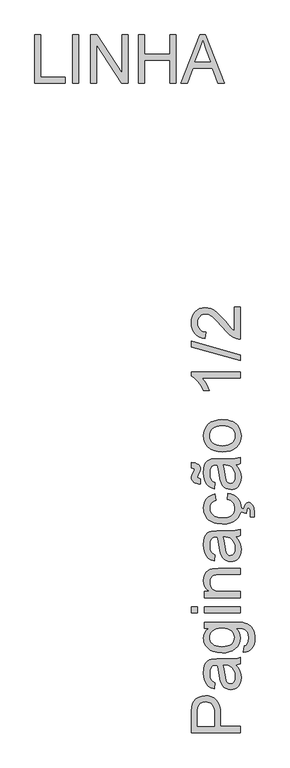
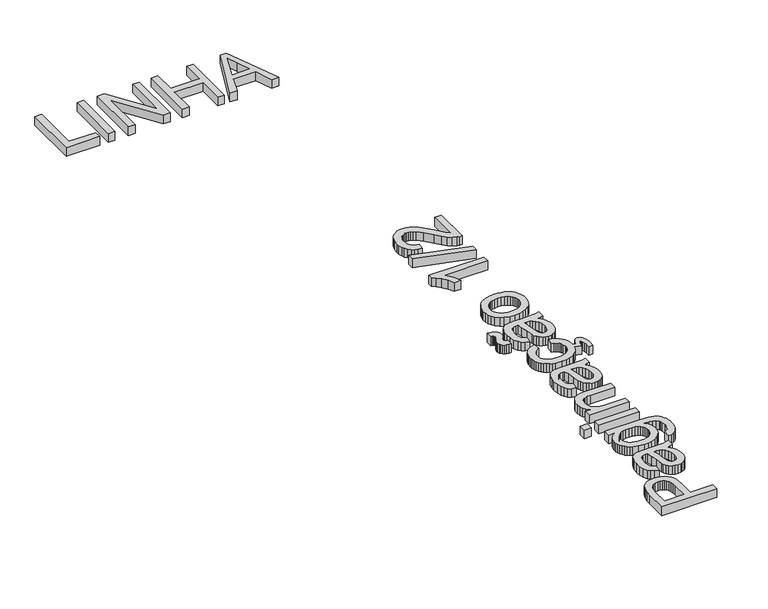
"""IFC4 building model written with IfcOpenShell, lengths in millimetres: proxy geometry, Tabela3D-1linha2 : Tabela3D-1linha2."""

import ifcopenshell
import ifcopenshell.guid

model = None  # the IFC model being written
_history = None  # IfcOwnerHistory: only IFC2X3 demands one
_inside = {}  # id of a spatial element -> (the spatial element, [elements in it])
_under = {}  # id of a project, library or spatial element -> (it, [spatial elements below it])
_declared = {}  # id of a project -> (the project, [libraries it declares])
_typed = {}  # id of a type object -> (the type object, [elements of that type])
_made_of = {}  # id of a material, layer set ... -> (it, [elements and type objects made of it])


def new_model(schema):
    """Start an empty IFC model of exactly this schema.

    Asked for "IFC4X3", IfcOpenShell would pick the latest addendum, in which some entities
    have other attributes; the version numbers below select the first issue.
    IFC2X3 requires an IfcOwnerHistory on every rooted entity: one is made here for all.
    """
    global model, _history
    if schema == "IFC4X3":
        model = ifcopenshell.file(schema_version=(4, 3, 0, 0))
    else:
        model = ifcopenshell.file(schema=schema)
    _inside.clear()
    _under.clear()
    _declared.clear()
    _typed.clear()
    _made_of.clear()
    _history = None
    if model.schema == "IFC2X3":
        org = make("IfcOrganization", Name="unknown")
        user = make(
            "IfcPersonAndOrganization",
            ThePerson=make("IfcPerson", FamilyName="unknown"),
            TheOrganization=org,
        )
        app = make(
            "IfcApplication",
            ApplicationDeveloper=org,
            Version="unknown",
            ApplicationFullName="unknown",
            ApplicationIdentifier="unknown",
        )
        _history = make(
            "IfcOwnerHistory",
            OwningUser=user,
            OwningApplication=app,
            ChangeAction="ADDED",
            CreationDate=0,
        )
    return model


def make(cls, **values):
    """One entity of the class cls with the attributes given. An attribute that is None is left unset."""
    return model.create_entity(
        cls, **{name: value for name, value in values.items() if value is not None}
    )


def rooted(cls, **values):
    """An entity with a GlobalId (a new one), such as an element, a storey or a relation."""
    return make(cls, GlobalId=ifcopenshell.guid.new(), OwnerHistory=_history, **values)


def si_unit(unit_type, name, prefix=None):
    """IfcSIUnit, for example si_unit("LENGTHUNIT", "METRE", prefix="MILLI")."""
    return make("IfcSIUnit", UnitType=unit_type, Prefix=prefix, Name=name)


def assignment(units):
    """IfcUnitAssignment: the units of a project."""
    return None if units is None else make("IfcUnitAssignment", Units=units)


def point(xyz):
    """IfcCartesianPoint."""
    return None if xyz is None else make("IfcCartesianPoint", Coordinates=xyz)


def direction(xyz):
    """IfcDirection."""
    return None if xyz is None else make("IfcDirection", DirectionRatios=xyz)


def frame(location, z_axis=None, x_axis=None):
    """IfcAxis2Placement3D, a coordinate frame: its origin and axes. An axis left out is left unset."""
    return make(
        "IfcAxis2Placement3D",
        Location=point(location),
        Axis=direction(z_axis),
        RefDirection=direction(x_axis),
    )


def origin():
    """The frame at (0, 0, 0) with its axes left unset."""
    return frame((0.0, 0.0, 0.0))


def origin_with_axes():
    """The frame at (0, 0, 0) with the z axis (0, 0, 1) and the x axis (1, 0, 0) written out."""
    return frame((0.0, 0.0, 0.0), z_axis=(0.0, 0.0, 1.0), x_axis=(1.0, 0.0, 0.0))


def place(relative_to, where):
    """IfcLocalPlacement: puts the frame where relative to a parent placement (None: the world)."""
    return make(
        "IfcLocalPlacement", PlacementRelTo=relative_to, RelativePlacement=where
    )


def context(
    kind, dimensions, precision=None, world=None, true_north=None, identifier=None
):
    """IfcGeometricRepresentationContext, for example the 3D "Model" context."""
    return make(
        "IfcGeometricRepresentationContext",
        ContextIdentifier=identifier,
        ContextType=kind,
        CoordinateSpaceDimension=dimensions,
        Precision=precision,
        WorldCoordinateSystem=world,
        TrueNorth=true_north,
    )


def project(units=None, contexts=None):
    """IfcProject with its units and contexts."""
    return rooted(
        "IfcProject",
        Name="project",
        RepresentationContexts=contexts,
        UnitsInContext=assignment(units),
    )


def spatial(cls, under=None, at=None, **own):
    """A site, building, storey or space (cls), placed at a placement, below another one or the project."""
    s = rooted(cls, ObjectPlacement=at, **own)
    if under is not None:
        _under.setdefault(under.id(), (under, []))[1].append(s)
    return s


def polyline(points):
    """IfcPolyline through the points."""
    return make("IfcPolyline", Points=[point(p) for p in points])


def outline(outer, holes=None, kind="AREA"):
    """IfcArbitraryClosedProfileDef: a profile drawn as a closed curve; with holes, ...WithVoids."""
    if holes is None:
        return make("IfcArbitraryClosedProfileDef", ProfileType=kind, OuterCurve=outer)
    return make(
        "IfcArbitraryProfileDefWithVoids",
        ProfileType=kind,
        OuterCurve=outer,
        InnerCurves=holes,
    )


def extrude(swept, where, along, depth):
    """IfcExtrudedAreaSolid: the profile swept, set in the frame where, extruded along a direction by depth."""
    return make(
        "IfcExtrudedAreaSolid",
        SweptArea=swept,
        Position=where,
        ExtrudedDirection=direction(along),
        Depth=depth,
    )


def shape(context_of_items, identifier, shape_type, items):
    """IfcShapeRepresentation: the items that make up one representation, for example the "Body"."""
    return make(
        "IfcShapeRepresentation",
        ContextOfItems=context_of_items,
        RepresentationIdentifier=identifier,
        RepresentationType=shape_type,
        Items=items,
    )


def source(mapping_origin, context_of_items, identifier, shape_type, items):
    """IfcRepresentationMap: a shape defined once, which mapped items show again and again."""
    return make(
        "IfcRepresentationMap",
        MappingOrigin=mapping_origin,
        MappedRepresentation=shape(context_of_items, identifier, shape_type, items),
    )


def transform(
    local_origin,
    x_axis=None,
    y_axis=None,
    z_axis=None,
    scale=None,
    scale2=None,
    scale3=None,
    uniform=True,
):
    """IfcCartesianTransformationOperator3D, or its non-uniform kind. x_axis, y_axis, z_axis: its Axis1, 2, 3."""
    if uniform:
        return make(
            "IfcCartesianTransformationOperator3D",
            Axis1=direction(x_axis),
            Axis2=direction(y_axis),
            LocalOrigin=point(local_origin),
            Scale=scale,
            Axis3=direction(z_axis),
        )
    return make(
        "IfcCartesianTransformationOperator3DnonUniform",
        Axis1=direction(x_axis),
        Axis2=direction(y_axis),
        LocalOrigin=point(local_origin),
        Scale=scale,
        Axis3=direction(z_axis),
        Scale2=scale2,
        Scale3=scale3,
    )


def mapped(mapping_source, mapping_target):
    """IfcMappedItem: shows the shape of a source again, moved by a transform."""
    return make(
        "IfcMappedItem", MappingSource=mapping_source, MappingTarget=mapping_target
    )


def made_of(thing, what):
    """Note that an element or type object is made of a material, layer set ...; save() writes the relation."""
    if what is not None:
        _made_of.setdefault(what.id(), (what, []))[1].append(thing)
    return thing


def element(
    cls,
    number,
    at=None,
    inside=None,
    cuts=None,
    type_object=None,
    material=None,
    context=None,
    identifier="Body",
    shape_type=None,
    held_by="IfcProductDefinitionShape",
    body=None,
    shapes=None,
    **own,
):
    """One element of the class cls, such as IfcWall. Its Tag is "e" and its number.

    at: its placement. inside: the storey or other place that contains it. cuts: it is an
    opening in that element (IfcRelVoidsElement). A single representation is given by context,
    identifier, shape_type and body (its items); several are given by shapes. held_by: the class
    of the entity that holds the representations. save() writes the other relations.
    """
    e = rooted(cls, Tag="e%d" % number, ObjectPlacement=at, **own)
    if body is not None:
        shapes = [shape(context, identifier, shape_type, body)]
    if shapes is not None:
        e.Representation = make(held_by, Representations=shapes)
    if inside is not None:
        _inside.setdefault(inside.id(), (inside, []))[1].append(e)
    if cuts is not None:
        rooted(
            "IfcRelVoidsElement", RelatingBuildingElement=cuts, RelatedOpeningElement=e
        )
    if type_object is not None:
        _typed.setdefault(type_object.id(), (type_object, []))[1].append(e)
    return made_of(e, material)


def aggregate(whole, parts):
    """IfcRelAggregates: a whole, such as a stair, and the parts it consists of."""
    return rooted("IfcRelAggregates", RelatingObject=whole, RelatedObjects=parts)


def save(model, path):
    """Write the relations noted so far, then the file.

    IfcRelAggregates (storeys below a building ...), IfcRelContainedInSpatialStructure (elements
    in a storey), IfcRelDefinesByType, IfcRelAssociatesMaterial and IfcRelDeclares: one each for
    every whole, place, type object, material and project.
    """
    for whole, parts in _under.values():
        aggregate(whole, parts)
    for where, things in _inside.values():
        rooted(
            "IfcRelContainedInSpatialStructure",
            RelatedElements=things,
            RelatingStructure=where,
        )
    for kind, things in _typed.values():
        rooted("IfcRelDefinesByType", RelatedObjects=things, RelatingType=kind)
    for what, things in _made_of.values():
        rooted("IfcRelAssociatesMaterial", RelatedObjects=things, RelatingMaterial=what)
    for by, libraries in _declared.values():
        rooted("IfcRelDeclares", RelatingContext=by, RelatedDefinitions=libraries)
    model.write(path)


def generic_models_8537fed1(model_context):
    return source(origin(), model_context, "Body", "SweptSolid", [
        extrude(outline(polyline([(2936.9308298, 5900.6929749), (2334.1929689, 5900.6929749), (2334.1929689, 6124.0709224), (2335.6277087, 6176.0894365), (2339.9319281, 6214.1284348), (2350.6556882, 6254.2827545), (2368.1116889, 6287.3369518), (2393.0908764, 6313.9532142), (2426.3841969, 6334.7937292), (2465.6555999, 6348.2582102), (2508.5690347, 6352.7463706), (2545.5687663, 6349.7159426), (2579.6070479, 6340.6246588), (2610.6838795, 6325.4725191), (2638.7992609, 6304.2595236), (2662.1045853, 6275.1370651), (2678.7512456, 6236.2565368), (2688.7392418, 6187.6179385), (2692.0685738, 6129.2212703), (2692.0685738, 5976.0352075), (2936.9308298, 5976.0352075), (2936.9308298, 5900.6929749)]), holes=[polyline([(2616.7263412, 5976.0352075), (2616.7263412, 6133.6358542), (2614.9972959, 6169.8722307), (2609.8101597, 6200.4432245), (2601.1649328, 6225.3488356), (2589.0616152, 6244.589064), (2573.8221035, 6258.9456588), (2555.7682946, 6269.2003694), (2534.9001885, 6275.3531958), (2511.217785, 6277.4041379), (2477.3726415, 6272.5664897), (2448.8249986, 6258.053545), (2427.3406901, 6235.6679256), (2414.6855495, 6207.2122533), (2410.8227885, 6178.1495756), (2409.5352016, 6131.8700206), (2409.5352016, 5976.0352075), (2616.7263412, 5976.0352075)])]), origin_with_axes(), (0.0, 0.0, 1.0), 100.0),
        extrude(outline(polyline([(2880.4241554, 6729.4575336), (2911.2894548, 6693.4602804), (2931.4861763, 6656.3961694), (2942.6330008, 6617.419072), (2946.3486089, 6575.6828596), (2944.1137258, 6542.1366202), (2937.4090764, 6512.7198562), (2926.2346608, 6487.4325675), (2910.590479, 6466.2747543), (2891.4698123, 6449.5683132), (2869.8659421, 6437.6351409), (2845.7788685, 6430.4752376), (2819.2085914, 6428.0886032), (2787.97541, 6431.6938467), (2759.6117082, 6442.5095774), (2735.3314965, 6459.1930259), (2716.3487855, 6480.4014229), (2702.0013877, 6505.3254281), (2691.6271155, 6533.155701), (2680.29635, 6598.3443905), (2668.3769734, 6675.3788803), (2654.3974575, 6729.0160752), (2637.6220386, 6729.4575336), (2603.9976242, 6724.2703975), (2591.5448187, 6717.7864773), (2581.9982809, 6708.7089891), (2572.4701372, 6693.018822), (2565.6643203, 6673.9073523), (2560.2196668, 6625.4205054), (2563.8433044, 6580.538902), (2574.7142174, 6549.195356), (2594.8189684, 6527.8214121), (2626.1441203, 6512.8486149), (2616.7263412, 6437.5063822), (2575.5235578, 6450.5845872), (2543.1499422, 6470.100727), (2518.3914839, 6497.8758176), (2500.0341724, 6535.730875), (2488.6666187, 6582.028824), (2484.8774342, 6635.13259), (2488.2251603, 6686.0658523), (2498.2683388, 6726.4409013), (2513.3698947, 6756.8831364), (2531.8927531, 6778.017957), (2554.7934073, 6792.034261), (2583.0283505, 6801.1209463), (2648.952804, 6804.7997662), (2742.6891364, 6804.7997662), (2873.5815503, 6808.625739), (2905.9367717, 6814.2911217), (2936.9308298, 6823.6353244), (2936.9308298, 6748.2930918), (2910.7376318, 6736.2265623), (2880.4241554, 6729.4575336)]), holes=[polyline([(2729.7396902, 6729.4575336), (2742.2844662, 6678.8369711), (2752.8426795, 6607.9093224), (2765.0563617, 6543.0885149), (2773.407283, 6526.2211254), (2784.9219894, 6513.7315316), (2798.7175643, 6506.0060097), (2813.9110907, 6503.4308358), (2836.3151042, 6509.0410362), (2854.6724157, 6525.8716375), (2866.9228862, 6553.5547576), (2871.0063763, 6591.7225146), (2866.4998219, 6632.1895341), (2852.9801585, 6667.947664), (2833.0593485, 6696.9367652), (2809.3493539, 6717.0966986), (2784.9219894, 6726.0362311), (2751.0768459, 6729.0160752), (2729.7396902, 6729.4575336)])]), origin_with_axes(), (0.0, 0.0, 1.0), 100.0),
        extrude(outline(polyline([(2974.6019461, 6889.5597779), (2984.0197252, 6964.9020105), (3007.5641729, 6973.2161436), (3023.7509807, 6989.329375), (3036.3325449, 7021.0040148), (3040.5263997, 7062.4643156), (3035.7807219, 7106.6837315), (3029.8486248, 7124.5444023), (3021.5436887, 7139.5723818), (2998.735005, 7162.3810655), (2968.2743758, 7176.3605814), (2935.8639721, 7180.4440715), (2880.4241554, 7181.5109293), (2905.1458255, 7156.4397713), (2922.8041612, 7128.4623456), (2933.3991627, 7097.5786521), (2936.9308298, 7063.7886908), (2932.8197485, 7022.4801413), (2920.4865047, 6986.1104075), (2899.9310982, 6954.6794896), (2871.1535291, 6928.1873874), (2836.6278039, 6907.1675299), (2798.8279288, 6892.153346), (2757.7539041, 6883.1448356), (2713.4057296, 6880.1419988), (2652.5764417, 6885.5314701), (2596.6399843, 6901.6998838), (2571.417075, 6913.6836397), (2549.2383892, 6928.0770228), (2530.1039269, 6944.8800329), (2514.0136882, 6964.0926701), (2501.2665771, 6985.4068332), (2492.1614977, 7008.5144211), (2486.69845, 7033.4154336), (2484.8774342, 7060.1098709), (2488.9977125, 7095.343769), (2501.3585475, 7127.3219114), (2521.9599393, 7156.0442982), (2550.8018877, 7181.5109293), (2494.2952132, 7181.5109293), (2494.2952132, 7256.8531619), (2876.4510298, 7256.8531619), (2964.6875264, 7251.702814), (2997.5071989, 7245.2648791), (3022.7944875, 7236.2517702), (3043.1889456, 7224.4473566), (3061.3301265, 7209.6355078), (3077.2180302, 7191.8162237), (3090.8526566, 7170.9895042), (3101.797146, 7147.3668816), (3109.6146384, 7121.159888), (3114.3051338, 7092.3685233), (3115.8686323, 7060.9927877), (3113.6659388, 7024.080428), (3107.0578585, 6990.8928735), (3096.0443913, 6961.4301242), (3080.6255372, 6935.6921801), (3060.782902, 6914.9022489), (3036.4980918, 6900.2835381), (3007.7711065, 6891.8360478), (2974.6019461, 6889.5597779)]), holes=[polyline([(2708.2553816, 6955.4842314), (2745.5080322, 6957.4937868), (2777.3620144, 6963.522453), (2803.8173284, 6973.57023), (2824.8739741, 6987.6371178), (2840.9366217, 7004.7390321), (2852.4099414, 7023.8918885), (2859.2939333, 7045.0956869), (2861.5885972, 7068.3504276), (2859.3077289, 7091.3752419), (2852.4651237, 7112.4778729), (2841.0607819, 7131.6583204), (2825.0947033, 7148.9165845), (2804.2449912, 7163.1766104), (2778.1897489, 7173.3623431), (2746.9289764, 7179.4737827), (2710.4626736, 7181.5109293), (2675.5184826, 7179.4140019), (2645.1452254, 7173.1232198), (2619.3429019, 7162.6385829), (2598.1115123, 7147.9600913), (2581.5338299, 7130.3293467), (2569.6926282, 7110.9879508), (2562.5879071, 7089.9359036), (2560.2196668, 7067.1732052), (2562.5511189, 7044.7921843), (2569.5454754, 7024.1494058), (2581.2027361, 7005.2448698), (2597.5229011, 6988.0785762), (2618.432394, 6973.8185504), (2643.8576384, 6963.6328176), (2673.7986343, 6957.521378), (2708.2553816, 6955.4842314)])]), origin_with_axes(), (0.0, 0.0, 1.0), 100.0),
        extrude(outline(polyline([(2409.5352016, 7369.8665108), (2334.1929689, 7369.8665108), (2334.1929689, 7445.2087434), (2409.5352016, 7445.2087434), (2409.5352016, 7369.8665108)])), origin_with_axes(), (0.0, 0.0, 1.0), 100.0),
        extrude(outline(polyline([(2936.9308298, 7369.8665108), (2494.2952132, 7369.8665108), (2494.2952132, 7445.2087434), (2936.9308298, 7445.2087434), (2936.9308298, 7369.8665108)])), origin_with_axes(), (0.0, 0.0, 1.0), 100.0),
        extrude(outline(polyline([(2936.9308298, 7558.2220923), (2494.2952132, 7558.2220923), (2494.2952132, 7633.564325), (2556.0993884, 7633.564325), (2524.9397834, 7659.7391289), (2502.6829227, 7691.1746454), (2489.3288063, 7727.8708744), (2484.8774342, 7769.827816), (2488.4642836, 7806.9655034), (2499.224832, 7840.9761938), (2515.81631, 7869.3398957), (2536.8959483, 7889.5366172), (2562.4085646, 7903.2402215), (2592.2989768, 7912.1245717), (2665.1396118, 7916.0976973), (2936.9308298, 7916.0976973), (2936.9308298, 7840.7554646), (2675.2931549, 7840.7554646), (2636.3344516, 7838.5849609), (2608.6329373, 7832.0734496), (2588.7857037, 7820.0621024), (2573.3898422, 7801.3920912), (2563.5122106, 7777.4613674), (2560.2196668, 7749.6678826), (2562.0682738, 7726.7902211), (2567.6140949, 7705.5404373), (2576.85713, 7685.9185314), (2589.7973792, 7667.9245033), (2607.9063704, 7652.8919253), (2632.6556316, 7642.1543695), (2664.0451629, 7635.7118361), (2702.0749641, 7633.564325), (2936.9308298, 7633.564325), (2936.9308298, 7558.2220923)])), origin_with_axes(), (0.0, 0.0, 1.0), 100.0),
        extrude(outline(polyline([(2880.4241554, 8302.2266394), (2911.2894548, 8266.2293862), (2931.4861763, 8229.1652752), (2942.6330008, 8190.1881778), (2946.3486089, 8148.4519654), (2944.1137258, 8114.905726), (2937.4090764, 8085.4889619), (2926.2346608, 8060.2016733), (2910.590479, 8039.04386), (2891.4698123, 8022.3374189), (2869.8659421, 8010.4042467), (2845.7788685, 8003.2443434), (2819.2085914, 8000.8577089), (2787.97541, 8004.4629525), (2759.6117082, 8015.2786832), (2735.3314965, 8031.9621316), (2716.3487855, 8053.1705287), (2702.0013877, 8078.0945338), (2691.6271155, 8105.9248068), (2680.29635, 8171.1134963), (2668.3769734, 8248.1479861), (2654.3974575, 8301.785181), (2637.6220386, 8302.2266394), (2603.9976242, 8297.0395033), (2591.5448187, 8290.5555831), (2581.9982809, 8281.4780949), (2572.4701372, 8265.7879278), (2565.6643203, 8246.6764581), (2560.2196668, 8198.1896112), (2563.8433044, 8153.3080077), (2574.7142174, 8121.9644618), (2594.8189684, 8100.5905178), (2626.1441203, 8085.6177206), (2616.7263412, 8010.275488), (2575.5235578, 8023.3536929), (2543.1499422, 8042.8698328), (2518.3914839, 8070.6449234), (2500.0341724, 8108.4999807), (2488.6666187, 8154.7979298), (2484.8774342, 8207.9016958), (2488.2251603, 8258.8349581), (2498.2683388, 8299.210007), (2513.3698947, 8329.6522421), (2531.8927531, 8350.7870628), (2554.7934073, 8364.8033668), (2583.0283505, 8373.8900521), (2648.952804, 8377.568872), (2742.6891364, 8377.568872), (2873.5815503, 8381.3948448), (2905.9367717, 8387.0602275), (2936.9308298, 8396.4044302), (2936.9308298, 8321.0621975), (2910.7376318, 8308.9956681), (2880.4241554, 8302.2266394)]), holes=[polyline([(2729.7396902, 8302.2266394), (2742.2844662, 8251.6060769), (2752.8426795, 8180.6784282), (2765.0563617, 8115.8576206), (2773.407283, 8098.9902312), (2784.9219894, 8086.5006374), (2798.7175643, 8078.7751155), (2813.9110907, 8076.1999416), (2836.3151042, 8081.810142), (2854.6724157, 8098.6407433), (2866.9228862, 8126.3238634), (2871.0063763, 8164.4916204), (2866.4998219, 8204.9586399), (2852.9801585, 8240.7167698), (2833.0593485, 8269.705871), (2809.3493539, 8289.8658044), (2784.9219894, 8298.8053368), (2751.0768459, 8301.785181), (2729.7396902, 8302.2266394)])]), origin_with_axes(), (0.0, 0.0, 1.0), 100.0),
        extrude(outline(polyline([(2776.8285855, 8763.6978141), (2786.2463646, 8839.0400468), (2821.7975609, 8830.8454753), (2853.25607, 8818.0339848), (2880.621892, 8800.6055753), (2903.8950267, 8778.5602467), (2922.4684689, 8752.8269012), (2935.7352134, 8724.3344407), (2943.69526, 8693.0828652), (2946.3486089, 8659.0721747), (2946.1709626, 8657.0443586), (2977.8393077, 8646.5641869), (2984.7554892, 8680.5013009), (2997.8520882, 8705.4988825), (3014.958601, 8720.894744), (3033.9045238, 8726.0266978), (3047.8288573, 8724.1688938), (3060.9070622, 8718.5954815), (3073.1391386, 8709.3064612), (3084.5250863, 8696.3018326), (3094.1176093, 8679.5448077), (3100.9694115, 8658.9985983), (3106.4508532, 8606.5386258), (3106.4508532, 8547.0888954), (3059.3619578, 8547.0888954), (3059.3619578, 8588.7331372), (3057.1914541, 8624.1969616), (3050.6799427, 8647.2999509), (3043.3223028, 8656.9016709), (3034.493135, 8660.1022443), (3023.8245571, 8654.9518964), (3015.878306, 8635.895609), (3012.2730625, 8591.823346), (2941.1816396, 8611.8178087), (2931.5413586, 8578.9290821), (2913.0322957, 8545.4104338), (2887.1196077, 8516.2603842), (2854.2907381, 8492.6653527), (2815.0331307, 8475.8117588), (2769.3467855, 8465.6996025), (2717.2317023, 8462.3288837), (2650.1852087, 8468.0862369), (2620.0142866, 8475.2829284), (2592.0782476, 8485.3582966), (2566.9381117, 8498.3813192), (2545.1548991, 8514.4209742), (2526.7286096, 8533.4772616), (2511.6592434, 8555.5501813), (2499.9422019, 8579.6418534), (2491.5728865, 8604.7543981), (2486.5512972, 8630.8878154), (2484.8774342, 8658.0421051), (2487.1766966, 8691.4687829), (2494.074484, 8721.7040844), (2505.5707964, 8748.7480096), (2521.6656337, 8772.6005584), (2541.9911139, 8792.8570608), (2566.1793551, 8809.1128464), (2594.2303572, 8821.3679154), (2626.1441203, 8829.6222677), (2635.5618994, 8754.2800351), (2602.6916431, 8740.6132189), (2579.1288013, 8719.3312455), (2564.9469504, 8691.6113372), (2560.2196668, 8658.6307163), (2562.5465204, 8633.030728), (2569.5270813, 8609.9415343), (2581.1613494, 8589.3631352), (2597.4493247, 8571.2955307), (2618.7680863, 8556.5848494), (2645.4947133, 8546.0772199), (2677.6292055, 8539.7726422), (2715.1715631, 8537.6711163), (2753.2795393, 8539.726657), (2785.7865121, 8545.8932789), (2812.6924815, 8556.1709821), (2833.9974476, 8570.5597667), (2850.1888539, 8588.2686862), (2861.7541441, 8608.5067945), (2868.6933183, 8631.2740915), (2871.0063763, 8656.5705771), (2865.230629, 8695.5844627), (2858.0109448, 8712.4564507), (2847.903387, 8727.5718022), (2834.7975909, 8740.5074529), (2818.583192, 8750.8403384), (2799.2601902, 8758.5704588), (2776.8285855, 8763.6978141)])), origin_with_axes(), (0.0, 0.0, 1.0), 100.0),
        extrude(outline(polyline([(2447.2063179, 8952.0533957), (2422.7513622, 8953.405362), (2400.8899747, 8957.7555666), (2381.6221552, 8965.1040095), (2364.9479037, 8975.4506906), (2351.4926198, 8987.9678755), (2341.8817026, 9002.1221352), (2336.1151524, 9017.9134699), (2334.1929689, 9035.3418794), (2340.2630219, 9063.1537582), (2358.4731806, 9095.6745266), (2368.5163591, 9112.8546158), (2371.8640852, 9126.1351558), (2369.969493, 9135.3505998), (2364.2857161, 9142.1012344), (2352.9733448, 9146.7917298), (2334.1929689, 9149.8267563), (2334.1929689, 9215.7512098), (2383.6363091, 9209.1845162), (2403.0604784, 9201.859066), (2418.9529806, 9191.8388801), (2431.3138157, 9179.7033728), (2440.1429836, 9166.0319582), (2445.4404843, 9150.8246362), (2447.2063179, 9134.0814069), (2441.4673587, 9106.0855871), (2424.2504814, 9074.4845237), (2413.2140215, 9055.6489655), (2409.5352016, 9042.6995193), (2411.9264345, 9032.693129), (2419.1001334, 9024.7468779), (2430.8355691, 9019.5229536), (2447.2063179, 9017.9778492), (2447.2063179, 8952.0533957)])), origin_with_axes(), (0.0, 0.0, 1.0), 100.0),
        extrude(outline(polyline([(2880.4241554, 9187.4978726), (2911.2894548, 9151.5006194), (2931.4861763, 9114.4365083), (2942.6330008, 9075.459411), (2946.3486089, 9033.7231986), (2944.1137258, 9000.1769592), (2937.4090764, 8970.7601951), (2926.2346608, 8945.4729065), (2910.590479, 8924.3150932), (2891.4698123, 8907.6086521), (2869.8659421, 8895.6754799), (2845.7788685, 8888.5155766), (2819.2085914, 8886.1289421), (2787.97541, 8889.7341857), (2759.6117082, 8900.5499163), (2735.3314965, 8917.2333648), (2716.3487855, 8938.4417619), (2702.0013877, 8963.365767), (2691.6271155, 8991.19604), (2680.29635, 9056.3847295), (2668.3769734, 9133.4192193), (2654.3974575, 9187.0564142), (2637.6220386, 9187.4978726), (2603.9976242, 9182.3107365), (2591.5448187, 9175.8268163), (2581.9982809, 9166.7493281), (2572.4701372, 9151.059161), (2565.6643203, 9131.9476913), (2560.2196668, 9083.4608444), (2563.8433044, 9038.5792409), (2574.7142174, 9007.2356949), (2594.8189684, 8985.861751), (2626.1441203, 8970.8889538), (2616.7263412, 8895.5467212), (2575.5235578, 8908.6249261), (2543.1499422, 8928.141066), (2518.3914839, 8955.9161566), (2500.0341724, 8993.7712139), (2488.6666187, 9040.069163), (2484.8774342, 9093.172929), (2488.2251603, 9144.1061913), (2498.2683388, 9184.4812402), (2513.3698947, 9214.9234753), (2531.8927531, 9236.0582959), (2554.7934073, 9250.0746), (2583.0283505, 9259.1612852), (2648.952804, 9262.8401052), (2742.6891364, 9262.8401052), (2873.5815503, 9266.6660779), (2905.9367717, 9272.3314607), (2936.9308298, 9281.6756634), (2936.9308298, 9206.3334307), (2910.7376318, 9194.2669013), (2880.4241554, 9187.4978726)]), holes=[polyline([(2729.7396902, 9187.4978726), (2742.2844662, 9136.8773101), (2752.8426795, 9065.9496614), (2765.0563617, 9001.1288538), (2773.407283, 8984.2614644), (2784.9219894, 8971.7718706), (2798.7175643, 8964.0463487), (2813.9110907, 8961.4711747), (2836.3151042, 8967.0813752), (2854.6724157, 8983.9119765), (2866.9228862, 9011.5950966), (2871.0063763, 9049.7628536), (2866.4998219, 9090.2298731), (2852.9801585, 9125.988003), (2833.0593485, 9154.9771042), (2809.3493539, 9175.1370375), (2784.9219894, 9184.07657), (2751.0768459, 9187.0564142), (2729.7396902, 9187.4978726)])]), origin_with_axes(), (0.0, 0.0, 1.0), 100.0),
        extrude(outline(polyline([(2715.6130215, 9347.6001169), (2658.2878096, 9351.67441), (2608.8904547, 9363.8972893), (2567.4209568, 9384.2687548), (2533.8793159, 9412.7888064), (2512.4409927, 9441.5019962), (2497.1279046, 9473.19503), (2487.9400518, 9507.8679081), (2484.8774342, 9545.5206303), (2488.6068379, 9587.0866972), (2499.7950491, 9624.6704416), (2518.4420677, 9658.2718633), (2544.5478938, 9687.8909624), (2577.2296105, 9712.065408), (2615.6043012, 9729.3328692), (2659.6719656, 9739.6933459), (2709.432604, 9743.1468381), (2749.7616677, 9741.6201278), (2785.5473888, 9737.039997), (2816.7897673, 9729.4064456), (2843.4888031, 9718.7194736), (2866.5504056, 9705.1124383), (2886.8804844, 9688.7186969), (2904.4790393, 9669.5382494), (2919.3460705, 9647.5710958), (2931.159681, 9623.6725616), (2939.5979743, 9598.6979727), (2944.6609503, 9572.6473289), (2946.3486089, 9545.5206303), (2942.6330008, 9503.3475581), (2931.4861763, 9465.4143258), (2912.9081356, 9431.7209336), (2886.8988785, 9402.2673814), (2853.8998635, 9378.3504532), (2814.352549, 9361.266933), (2768.256935, 9351.0168209), (2715.6130215, 9347.6001169)]), holes=[polyline([(2715.4658687, 9422.9423495), (2752.0103464, 9425.1220503), (2783.6527965, 9431.6611528), (2810.3932191, 9442.5596569), (2832.231614, 9457.8175626), (2849.1955725, 9476.3772093), (2861.3126857, 9497.1809361), (2868.5829537, 9520.2287431), (2871.0063763, 9545.5206303), (2868.5691581, 9570.6837588), (2861.2575034, 9593.6395953), (2849.0714123, 9614.3881398), (2832.0108848, 9632.9293923), (2809.9563592, 9648.1872981), (2782.7882739, 9659.0858022), (2750.5066288, 9665.6249047), (2713.111424, 9667.8046055), (2677.7257746, 9665.6111091), (2646.9110589, 9659.0306199), (2620.6672771, 9648.0631379), (2598.9944291, 9632.7086631), (2582.0304706, 9614.0984327), (2569.9133574, 9593.3636838), (2562.6430894, 9570.5044163), (2560.2196668, 9545.5206303), (2562.6338924, 9520.2287431), (2569.8765692, 9497.1809361), (2581.9476971, 9476.3772093), (2598.8472763, 9457.8175626), (2620.6212919, 9442.5596569), (2647.3157291, 9431.6611528), (2678.9305881, 9425.1220503), (2715.4658687, 9422.9423495)])]), origin_with_axes(), (0.0, 0.0, 1.0), 100.0),
        extrude(outline(polyline([(2936.9308298, 10327.0491408), (2936.9308298, 10251.7069082), (2467.2190984, 10251.7069082), (2492.6581384, 10220.2529976), (2518.0603901, 10180.3378012), (2540.2620685, 10138.4360419), (2556.0993884, 10101.022443), (2484.8774342, 10101.022443), (2452.6877596, 10160.1962619), (2414.3912439, 10211.460618), (2373.666707, 10251.8724551), (2334.1929689, 10278.4887175), (2334.1929689, 10327.0491408), (2936.9308298, 10327.0491408)])), origin_with_axes(), (0.0, 0.0, 1.0), 100.0),
        extrude(outline(polyline([(2936.9308298, 10468.315827), (2334.1929689, 10637.8358504), (2334.1929689, 10705.8204431), (2936.9308298, 10536.3004197), (2936.9308298, 10468.315827)])), origin_with_axes(), (0.0, 0.0, 1.0), 100.0),
        extrude(outline(polyline([(2861.5885972, 11127.5603624), (2936.9308298, 11127.5603624), (2936.9308298, 10732.0136411), (2910.406538, 10733.6691101), (2884.9858921, 10740.107045), (2844.390114, 10758.6850858), (2805.0083464, 10785.8715652), (2763.7871688, 10825.1981505), (2717.6731607, 10880.1965088), (2645.4579251, 10961.4984297), (2592.151824, 11010.2795823), (2570.3732098, 11024.5074185), (2548.8889013, 11034.6701586), (2527.6988984, 11040.7678026), (2506.8032011, 11042.8003507), (2487.144507, 11040.8827658), (2469.0769025, 11035.1300111), (2452.6003876, 11025.5420866), (2437.7149624, 11012.1189923), (2425.386317, 10995.6056892), (2416.5801418, 10976.7471384), (2411.2964366, 10955.5433399), (2409.5352016, 10931.9942937), (2411.2550499, 10907.1852517), (2416.4145949, 10884.9973688), (2425.0138365, 10865.4306452), (2437.0527748, 10848.4850808), (2452.1267395, 10834.776878), (2469.8310606, 10824.922239), (2490.1657378, 10818.921164), (2513.1307714, 10816.7736528), (2503.7129923, 10741.4314202), (2464.8186684, 10747.9107419), (2430.8355691, 10759.6967613), (2401.7636944, 10776.7894785), (2377.6030444, 10799.1888935), (2358.6111364, 10826.3799714), (2345.0454878, 10857.8476776), (2336.9060987, 10893.5920119), (2334.1929689, 10933.6129745), (2337.2096013, 10973.992622), (2346.2594984, 11009.9300944), (2361.3426602, 11041.4253917), (2382.4590867, 11068.4785139), (2408.0452795, 11090.2065443), (2436.53774, 11105.7265659), (2467.9364683, 11115.0385789), (2502.2414643, 11118.1425833), (2538.2755058, 11114.7948571), (2573.6841478, 11104.7516786), (2609.6997951, 11086.927796), (2647.5548524, 11060.2379572), (2692.7491555, 11017.6924045), (2750.7825403, 10952.3013798), (2823.2552933, 10865.6283818), (2861.5885972, 10831.6360854), (2861.5885972, 11127.5603624)])), origin_with_axes(), (0.0, 0.0, 1.0), 100.0),
        extrude(outline(polyline([(411.2175733, 13876.9139754), (411.2175733, 14467.6832062), (485.0637272, 14467.6832062), (485.0637272, 13950.7601293), (780.4483426, 13950.7601293), (780.4483426, 13876.9139754), (411.2175733, 13876.9139754)])), origin_with_axes(), (0.0, 0.0, 1.0), 100.0),
        extrude(outline(polyline([(872.7560349, 13876.9139754), (872.7560349, 14467.6832062), (946.6021887, 14467.6832062), (946.6021887, 13876.9139754), (872.7560349, 13876.9139754)])), origin_with_axes(), (0.0, 0.0, 1.0), 100.0),
        extrude(outline(polyline([(1094.2944964, 13876.9139754), (1094.2944964, 14467.6832062), (1173.332958, 14467.6832062), (1481.9868041, 13999.65436), (1481.9868041, 14467.6832062), (1555.832958, 14467.6832062), (1555.832958, 13876.9139754), (1476.7944964, 13876.9139754), (1168.1406503, 14345.0870523), (1168.1406503, 13876.9139754), (1094.2944964, 13876.9139754)])), origin_with_axes(), (0.0, 0.0, 1.0), 100.0),
        extrude(outline(polyline([(1685.0637272, 13876.9139754), (1685.0637272, 14467.6832062), (1758.909881, 14467.6832062), (1758.909881, 14227.6832062), (2072.7560349, 14227.6832062), (2072.7560349, 14467.6832062), (2146.6021887, 14467.6832062), (2146.6021887, 13876.9139754), (2072.7560349, 13876.9139754), (2072.7560349, 14153.8370523), (1758.909881, 14153.8370523), (1758.909881, 13876.9139754), (1685.0637272, 13876.9139754)])), origin_with_axes(), (0.0, 0.0, 1.0), 100.0),
        extrude(outline(polyline([(2207.034881, 13876.9139754), (2442.8521887, 14467.6832062), (2505.7368041, 14467.6832062), (2741.5541118, 13876.9139754), (2663.5252657, 13876.9139754), (2595.8810349, 14061.52936), (2352.5637272, 14061.52936), (2285.0637272, 13876.9139754), (2207.034881, 13876.9139754)]), holes=[polyline([(2379.6791118, 14135.3755139), (2568.909881, 14135.3755139), (2515.6887272, 14280.6158985), (2474.2944964, 14393.8370523), (2437.5156503, 14293.3082062), (2379.6791118, 14135.3755139)])]), origin_with_axes(), (0.0, 0.0, 1.0), 100.0),
    ])


if __name__ == "__main__":
    model = new_model("IFC4")
    model_context = context("Model", 3, world=origin())
    ifc_project = project(units=[si_unit("LENGTHUNIT", "METRE", prefix="MILLI")], contexts=[model_context])
    site = spatial("IfcSite", under=ifc_project)
    building = spatial("IfcBuilding", under=site)
    placement = place(None, origin())
    generic_models_shape = generic_models_8537fed1(model_context)
    element("IfcBuildingElementProxy", 1, Name="Tabela3D-1linha2 : Tabela3D-1linha2", ObjectType="Tabela3D-1linha2 : Tabela3D-1linha2", at=placement, inside=building, context=model_context, shape_type="MappedRepresentation", body=[
        mapped(generic_models_shape, transform((0.0, 0.0, 0.0), x_axis=(1.0, 0.0, 0.0), y_axis=(0.0, 1.0, 0.0), z_axis=(0.0, 0.0, 1.0))),
    ])
    save(model, "model.ifc")
